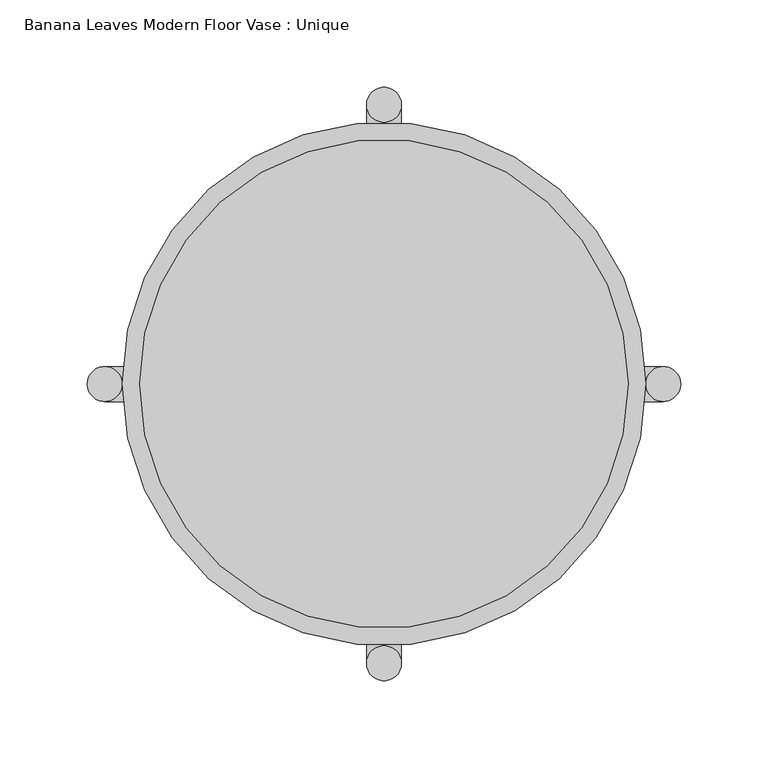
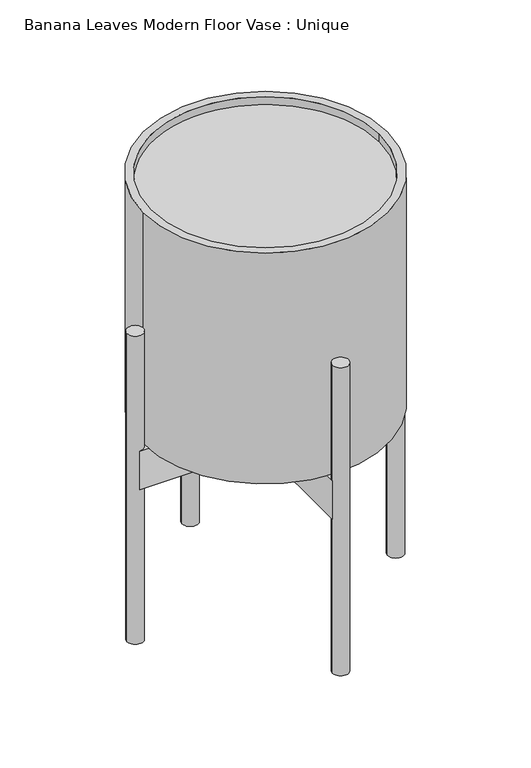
"""IFC4 building model written with IfcOpenShell, lengths in millimetres: proxy geometry, Banana Leaves Modern Floor Vase : Unique."""

from ifc_helpers import new_model, si_unit, point, frame, origin, origin_2d, place, context, project, spatial, polyline, circle_curve, trimmed, segment, composite_curve, outline, extrude, source, transform, mapped, element, save
from ifc_brep_helpers import plane_surface, cylinder_surface, revolved_surface, advanced_brep


def banana_leaves_modern_floor_vase_unique_f53864f7(model_context):
    return source(origin(), model_context, "Body", "SolidModel", [
        advanced_brep(
        [(-10.0, 10.0, 250.0), (-160.0, 10.0, 250.0), (-150.0, 0.0, 250.0), (-160.0, -10.0, 250.0), (-10.0, -10.0, 250.0), (-10.0, -160.0, 250.0), (10.0, -160.0, 250.0), (10.0, -10.0, 250.0), (160.0, -10.0, 250.0), (150.0, 0.0, 250.0), (160.0, 10.0, 250.0), (10.0, 10.0, 250.0), (10.0, 160.0, 250.0), (-10.0, 160.0, 250.0), (-10.0, 10.0, 200.0), (-10.0, 160.0, 200.0), (10.0, 160.0, 200.0), (10.0, 10.0, 200.0), (160.0, 10.0, 200.0), (150.0, 0.0, 200.0), (160.0, -10.0, 200.0), (10.0, -10.0, 200.0), (10.0, -160.0, 200.0), (-10.0, -160.0, 200.0), (-10.0, -10.0, 200.0), (-160.0, -10.0, 200.0), (-150.0, 0.0, 200.0), (-160.0, 10.0, 200.0), (-10.0, 160.0, 400.0), (10.0, 160.0, 400.0), (150.0, 0.0, 400.0), (170.0, 0.0, 400.0), (-170.0, 0.0, 400.0), (-150.0, 0.0, 400.0), (-10.0, -160.0, 400.0), (10.0, -160.0, 400.0), (-10.0, 160.0, 0.0), (10.0, 160.0, 0.0), (150.0, 0.0, 0.0), (170.0, 0.0, 0.0), (-170.0, 0.0, 0.0), (-150.0, 0.0, 0.0), (-10.0, -160.0, 0.0), (10.0, -160.0, 0.0)],
        [
            (0, 1),
            (1, 2, circle_curve(frame((-160.0, 0.0, 250.0), z_axis=(0.0, 0.0, -1.0), x_axis=(1.0, 0.0, 0.0)), 10.0)),
            (2, 3, circle_curve(frame((-160.0, 0.0, 250.0), z_axis=(0.0, 0.0, -1.0), x_axis=(1.0, 0.0, 0.0)), 10.0)),
            (3, 4),
            (4, 5),
            (5, 6, circle_curve(frame((0.0, -160.0, 250.0), z_axis=(0.0, 0.0, -1.0), x_axis=(1.0, 0.0, 0.0)), 10.0)),
            (6, 7),
            (7, 8),
            (8, 9, circle_curve(frame((160.0, 0.0, 250.0), z_axis=(0.0, 0.0, -1.0), x_axis=(1.0, 0.0, 0.0)), 10.0)),
            (9, 10, circle_curve(frame((160.0, 0.0, 250.0), z_axis=(0.0, 0.0, -1.0), x_axis=(1.0, 0.0, 0.0)), 10.0)),
            (10, 11),
            (11, 12),
            (12, 13, circle_curve(frame((0.0, 160.0, 250.0), z_axis=(0.0, 0.0, -1.0), x_axis=(1.0, 0.0, 0.0)), 10.0)),
            (13, 0),
            (14, 15),
            (15, 16, circle_curve(frame((0.0, 160.0, 200.0), z_axis=(0.0, 0.0, 1.0), x_axis=(1.0, 0.0, 0.0)), 10.0)),
            (16, 17),
            (17, 18),
            (18, 19, circle_curve(frame((160.0, 0.0, 200.0), z_axis=(0.0, 0.0, 1.0), x_axis=(1.0, 0.0, 0.0)), 10.0)),
            (19, 20, circle_curve(frame((160.0, 0.0, 200.0), z_axis=(0.0, 0.0, 1.0), x_axis=(1.0, 0.0, 0.0)), 10.0)),
            (20, 21),
            (21, 22),
            (22, 23, circle_curve(frame((0.0, -160.0, 200.0), z_axis=(0.0, 0.0, 1.0), x_axis=(1.0, 0.0, 0.0)), 10.0)),
            (23, 24),
            (24, 25),
            (25, 26, circle_curve(frame((-160.0, 0.0, 200.0), z_axis=(0.0, 0.0, 1.0), x_axis=(1.0, 0.0, 0.0)), 10.0)),
            (26, 27, circle_curve(frame((-160.0, 0.0, 200.0), z_axis=(0.0, 0.0, 1.0), x_axis=(1.0, 0.0, 0.0)), 10.0)),
            (27, 14),
            (0, 14),
            (27, 1),
            (3, 25),
            (24, 4),
            (23, 5),
            (6, 22),
            (21, 7),
            (20, 8),
            (10, 18),
            (17, 11),
            (16, 12),
            (13, 15),
            (28, 29, circle_curve(frame((0.0, 160.0, 400.0), z_axis=(0.0, 0.0, 1.0), x_axis=(1.0, 0.0, 0.0)), 10.0)),
            (29, 28, circle_curve(frame((0.0, 160.0, 400.0), z_axis=(0.0, 0.0, 1.0), x_axis=(1.0, 0.0, 0.0)), 10.0)),
            (30, 31, circle_curve(frame((160.0, 0.0, 400.0), z_axis=(0.0, 0.0, 1.0), x_axis=(1.0, 0.0, 0.0)), 10.0)),
            (31, 30, circle_curve(frame((160.0, 0.0, 400.0), z_axis=(0.0, 0.0, 1.0), x_axis=(1.0, 0.0, 0.0)), 10.0)),
            (32, 33, circle_curve(frame((-160.0, 0.0, 400.0), z_axis=(0.0, 0.0, 1.0), x_axis=(1.0, 0.0, 0.0)), 10.0)),
            (33, 32, circle_curve(frame((-160.0, 0.0, 400.0), z_axis=(0.0, 0.0, 1.0), x_axis=(1.0, 0.0, 0.0)), 10.0)),
            (34, 35, circle_curve(frame((0.0, -160.0, 400.0), z_axis=(0.0, 0.0, 1.0), x_axis=(1.0, 0.0, 0.0)), 10.0)),
            (35, 34, circle_curve(frame((0.0, -160.0, 400.0), z_axis=(0.0, 0.0, 1.0), x_axis=(1.0, 0.0, 0.0)), 10.0)),
            (36, 37, circle_curve(frame((0.0, 160.0, 0.0), z_axis=(0.0, 0.0, -1.0), x_axis=(1.0, 0.0, 0.0)), 10.0)),
            (37, 36, circle_curve(frame((0.0, 160.0, 0.0), z_axis=(0.0, 0.0, -1.0), x_axis=(1.0, 0.0, 0.0)), 10.0)),
            (38, 39, circle_curve(frame((160.0, 0.0, 0.0), z_axis=(0.0, 0.0, -1.0), x_axis=(1.0, 0.0, 0.0)), 10.0)),
            (39, 38, circle_curve(frame((160.0, 0.0, 0.0), z_axis=(0.0, 0.0, -1.0), x_axis=(1.0, 0.0, 0.0)), 10.0)),
            (40, 41, circle_curve(frame((-160.0, 0.0, 0.0), z_axis=(0.0, 0.0, -1.0), x_axis=(1.0, 0.0, 0.0)), 10.0)),
            (41, 40, circle_curve(frame((-160.0, 0.0, 0.0), z_axis=(0.0, 0.0, -1.0), x_axis=(1.0, 0.0, 0.0)), 10.0)),
            (42, 43, circle_curve(frame((0.0, -160.0, 0.0), z_axis=(0.0, 0.0, -1.0), x_axis=(1.0, 0.0, 0.0)), 10.0)),
            (43, 42, circle_curve(frame((0.0, -160.0, 0.0), z_axis=(0.0, 0.0, -1.0), x_axis=(1.0, 0.0, 0.0)), 10.0)),
            (28, 13),
            (12, 29),
            (37, 16),
            (15, 36),
            (30, 9),
            (19, 38),
            (39, 31),
            (32, 40),
            (41, 26),
            (2, 33),
            (34, 5),
            (23, 42),
            (43, 22),
            (6, 35),
        ],
        [
            plane_surface(frame((-160.0, 10.0, 250.0), z_axis=(0.0, 0.0, 1.0), x_axis=(-1.0, 0.0, 0.0))),
            plane_surface(frame((-160.0, 10.0, 200.0), z_axis=(0.0, 0.0, -1.0), x_axis=(1.0, 0.0, 0.0))),
            plane_surface(frame((-10.0, 10.0, 250.0), z_axis=(0.0, 1.0, 0.0), x_axis=(0.0, 0.0, -1.0))),
            plane_surface(frame((-160.0, -10.0, 250.0), z_axis=(0.0, -1.0, 0.0), x_axis=(0.0, 0.0, -1.0))),
            plane_surface(frame((-10.0, -10.0, 250.0), z_axis=(-1.0, 0.0, 0.0), x_axis=(0.0, 0.0, -1.0))),
            plane_surface(frame((10.0, -160.0, 250.0), z_axis=(1.0, 0.0, 0.0), x_axis=(0.0, 0.0, -1.0))),
            plane_surface(frame((10.0, -10.0, 250.0), z_axis=(0.0, -1.0, 0.0), x_axis=(0.0, 0.0, -1.0))),
            plane_surface(frame((160.0, 10.0, 250.0), z_axis=(0.0, 1.0, 0.0), x_axis=(0.0, 0.0, -1.0))),
            plane_surface(frame((10.0, 10.0, 250.0), z_axis=(1.0, 0.0, 0.0), x_axis=(0.0, 0.0, -1.0))),
            plane_surface(frame((-10.0, 160.0, 250.0), z_axis=(-1.0, 0.0, 0.0), x_axis=(0.0, 0.0, -1.0))),
            plane_surface(frame((10.0, 160.0, 400.0), z_axis=(0.0, 0.0, 1.0), x_axis=(0.0, 1.0, 0.0))),
            plane_surface(frame((10.0, 160.0, 0.0), z_axis=(0.0, 0.0, -1.0), x_axis=(0.0, -1.0, 0.0))),
            cylinder_surface(frame((0.0, 160.0, 0.0), z_axis=(0.0, 0.0, 1.0), x_axis=(1.0, 0.0, 0.0)), 10.0),
            cylinder_surface(frame((160.0, 0.0, 0.0), z_axis=(0.0, 0.0, 1.0), x_axis=(1.0, 0.0, 0.0)), 10.0),
            cylinder_surface(frame((-160.0, 0.0, 0.0), z_axis=(0.0, 0.0, 1.0), x_axis=(1.0, 0.0, 0.0)), 10.0),
            cylinder_surface(frame((0.0, -160.0, 0.0), z_axis=(0.0, 0.0, 1.0), x_axis=(1.0, 0.0, 0.0)), 10.0),
        ],
        [
            (0, [[1, 2, 3, 4, 5, 6, 7, 8, 9, 10, 11, 12, 13, 14]]),
            (1, [[15, 16, 17, 18, 19, 20, 21, 22, 23, 24, 25, 26, 27, 28]]),
            (2, [[-1, 29, -28, 30]]),
            (3, [[-4, 31, -25, 32]]),
            (4, [[-5, -32, -24, 33]]),
            (5, [[-7, 34, -22, 35]]),
            (6, [[-8, -35, -21, 36]]),
            (7, [[-11, 37, -18, 38]]),
            (8, [[-12, -38, -17, 39]]),
            (9, [[-14, 40, -15, -29]]),
            (10, [[41, 42]]),
            (10, [[43, 44]]),
            (10, [[45, 46]]),
            (10, [[47, 48]]),
            (11, [[49, 50]]),
            (11, [[51, 52]]),
            (11, [[53, 54]]),
            (11, [[55, 56]]),
            (12, [[-41, 57, -13, 58]]),
            (12, [[-50, 59, -16, 60]]),
            (12, [[-42, -58, -39, -59, -49, -60, -40, -57]]),
            (13, [[-43, 61, -9, -36, -20, 62, -52, 63]]),
            (13, [[-44, -63, -51, -62, -19, -37, -10, -61]]),
            (14, [[-45, 64, -54, 65, -26, -31, -3, 66]]),
            (14, [[-46, -66, -2, -30, -27, -65, -53, -64]]),
            (15, [[-47, 67, -33, 68, -56, 69, -34, 70]]),
            (15, [[-48, -70, -6, -67]]),
            (15, [[-55, -68, -23, -69]]),
        ],
    ),
        extrude(outline(composite_curve([segment(trimmed(circle_curve(origin_2d(), 140.0), [point((140.0, 0.0))], [point((-140.0, 0.0))], False, "CARTESIAN"), True, "CONTINUOUS"), segment(trimmed(circle_curve(origin_2d(), 140.0), [point((-140.0, 0.0))], [point((140.0, 0.0))], False, "CARTESIAN"), True, "CONTINUOUS")], self_intersect=False)), frame((0.0, 0.0, 260.0), z_axis=(0.0, 0.0, 1.0), x_axis=(1.0, 0.0, 0.0)), (0.0, 0.0, 1.0), 280.0),
        advanced_brep(
        [(-150.0, 0.0, 550.0), (150.0, 0.0, 550.0), (140.0, 0.0, 550.0), (-140.0, 0.0, 550.0), (-150.0, 0.0, 250.0), (150.0, 0.0, 250.0), (-140.0, 0.0, 260.0), (140.0, 0.0, 260.0)],
        [
            (0, 1, circle_curve(frame((0.0, 0.0, 550.0), z_axis=(0.0, 0.0, 1.0), x_axis=(1.0, 0.0, 0.0)), 150.0)),
            (1, 0, circle_curve(frame((0.0, 0.0, 550.0), z_axis=(0.0, 0.0, 1.0), x_axis=(1.0, 0.0, 0.0)), 150.0)),
            (2, 3, circle_curve(frame((0.0, 0.0, 550.0), z_axis=(0.0, 0.0, -1.0), x_axis=(1.0, 0.0, 0.0)), 140.0)),
            (3, 2, circle_curve(frame((0.0, 0.0, 550.0), z_axis=(0.0, 0.0, -1.0), x_axis=(1.0, 0.0, 0.0)), 140.0)),
            (4, 5, circle_curve(frame((0.0, 0.0, 250.0), z_axis=(0.0, 0.0, -1.0), x_axis=(1.0, 0.0, 0.0)), 150.0)),
            (5, 4, circle_curve(frame((0.0, 0.0, 250.0), z_axis=(0.0, 0.0, -1.0), x_axis=(1.0, 0.0, 0.0)), 150.0)),
            (0, 4),
            (5, 1),
            (6, 7, circle_curve(frame((0.0, 0.0, 260.0), z_axis=(0.0, 0.0, 1.0), x_axis=(1.0, 0.0, 0.0)), 140.0)),
            (7, 6, circle_curve(frame((0.0, 0.0, 260.0), z_axis=(0.0, 0.0, 1.0), x_axis=(1.0, 0.0, 0.0)), 140.0)),
            (6, 3),
            (2, 7),
        ],
        [
            plane_surface(frame((150.0, 0.0, 550.0), z_axis=(0.0, 0.0, 1.0), x_axis=(0.0, 1.0, 0.0))),
            plane_surface(frame((150.0, 0.0, 250.0), z_axis=(0.0, 0.0, -1.0), x_axis=(0.0, -1.0, 0.0))),
            cylinder_surface(frame((0.0, 0.0, 250.0), z_axis=(0.0, 0.0, 1.0), x_axis=(1.0, 0.0, 0.0)), 150.0),
            plane_surface(frame((140.0, 0.0, 260.0), z_axis=(0.0, 0.0, 1.0), x_axis=(0.0, -1.0, 0.0))),
            revolved_surface(polyline([(140.0, 0.0, 550.0), (140.0, 0.0, 260.0)]), (0.0, 0.0, 260.0), (0.0, 0.0, 1.0)),
        ],
        [
            (0, [[1, 2], [3, 4]]),
            (1, [[5, 6]]),
            (2, [[-1, 7, -6, 8]]),
            (2, [[-2, -8, -5, -7]]),
            (3, [[9, 10]]),
            (4, [[-9, 11, -3, 12]]),
            (4, [[-10, -12, -4, -11]]),
        ],
    ),
    ])


if __name__ == "__main__":
    model = new_model("IFC4")
    model_context = context("Model", 3, world=origin())
    ifc_project = project(units=[si_unit("LENGTHUNIT", "METRE", prefix="MILLI")], contexts=[model_context])
    site = spatial("IfcSite", under=ifc_project)
    building = spatial("IfcBuilding", under=site)
    placement = place(None, origin())
    banana_leaves_modern_floor_vase_unique_shape = banana_leaves_modern_floor_vase_unique_f53864f7(model_context)
    element("IfcBuildingElementProxy", 1, Name="Banana Leaves Modern Floor Vase : Unique", ObjectType="Banana Leaves Modern Floor Vase : Unique", at=placement, inside=building, context=model_context, shape_type="MappedRepresentation", body=[
        mapped(banana_leaves_modern_floor_vase_unique_shape, transform((0.0, 0.0, 0.0), x_axis=(1.0, 0.0, 0.0), y_axis=(0.0, 1.0, 0.0), z_axis=(0.0, 0.0, 1.0))),
    ])
    save(model, "model.ifc")
